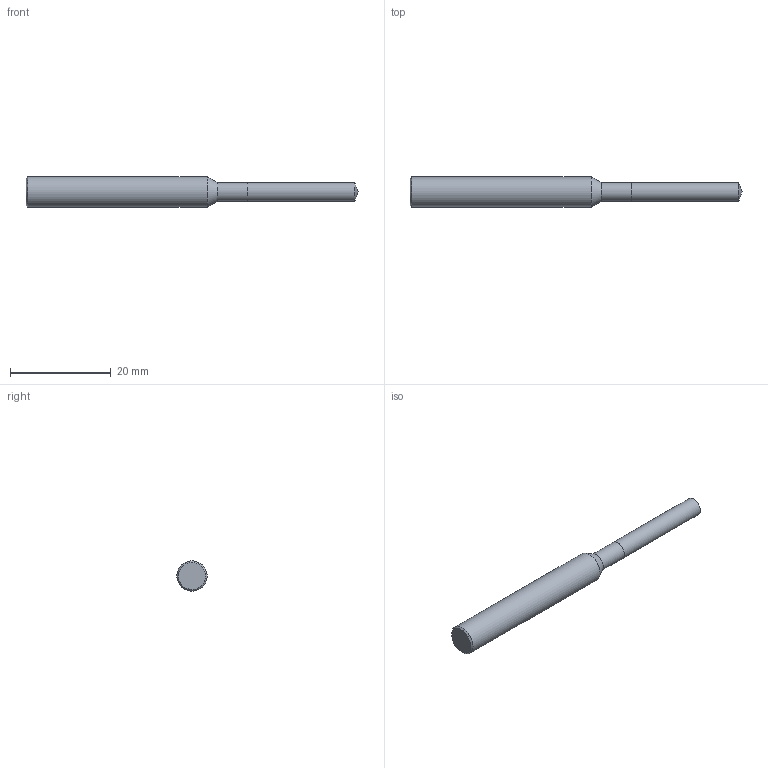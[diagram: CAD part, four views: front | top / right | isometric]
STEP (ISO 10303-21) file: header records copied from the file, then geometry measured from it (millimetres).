
FILE_DESCRIPTION(('STEP'), '1');
FILE_NAME('255570.0080.stp', '2019-03-13T18:06:15', ('TDM Systems GmbH'), ('TDM Systems GmbH'), 'HarmonyWare STEP v2.0.10 Express v3.0.0.0', 'TDM', 'Unknown');
FILE_SCHEMA(('AUTOMOTIVE_DESIGN'));
Length unit declared in the file: millimetre
Products named in the file (1): NONE
Bounding box: 66 x 6 x 5.98 mm (x, y, z)
Volume: 1354.8 mm3; surface area: 1091 mm2
Topology: 2 solids, 2 shells, 9 faces, 18 edges, 12 vertices
Faces by surface type: bspline 9
Entity records: 366 total; most frequent: CARTESIAN_POINT 211, ORIENTED_EDGE 26, EDGE_CURVE 13, B_SPLINE_CURVE_WITH_KNOTS 10, ADVANCED_FACE 9, FACE_OUTER_BOUND 9, EDGE_LOOP 9, VERTEX_POINT 8
